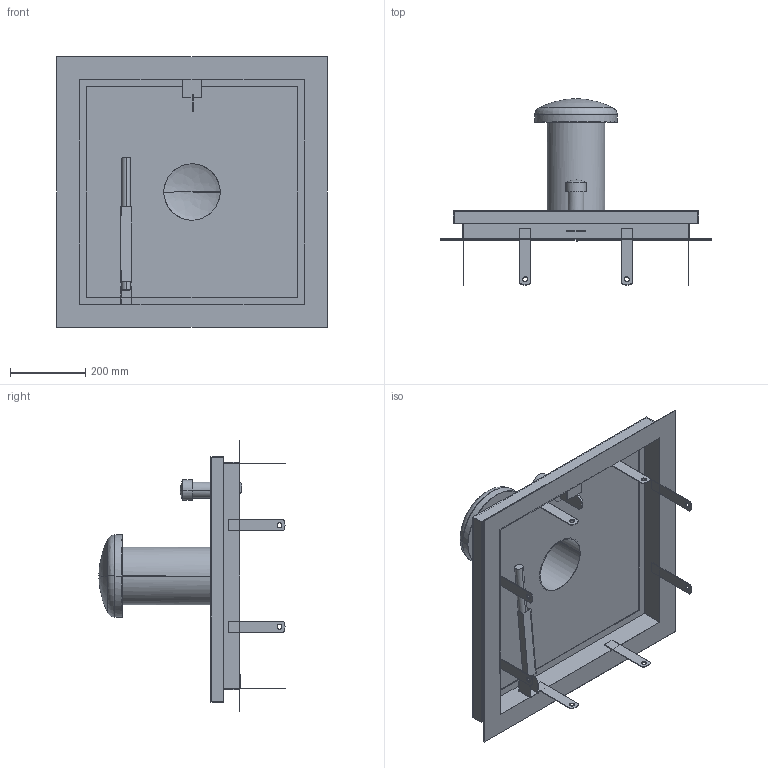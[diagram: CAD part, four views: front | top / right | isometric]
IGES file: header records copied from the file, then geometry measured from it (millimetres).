
Start section:  PTC IGES file: 52335825.igs
Global section: file name: 52335825.igs; native system: Creo Parametric by PTC Inc.; preprocessor: 2022162; author: wep; organization: Unknown; date: 20241219.071310; units: millimetre
Bounding box: 720 x 495 x 720 mm (x, y, z)
Surface area: 2215189.6 mm2 (no closed solid volume)
Topology: 0 solids, 0 shells, 746 faces, 4042 edges, 4036 vertices
Faces by surface type: bspline 418, extrusion 275, revolution 53
